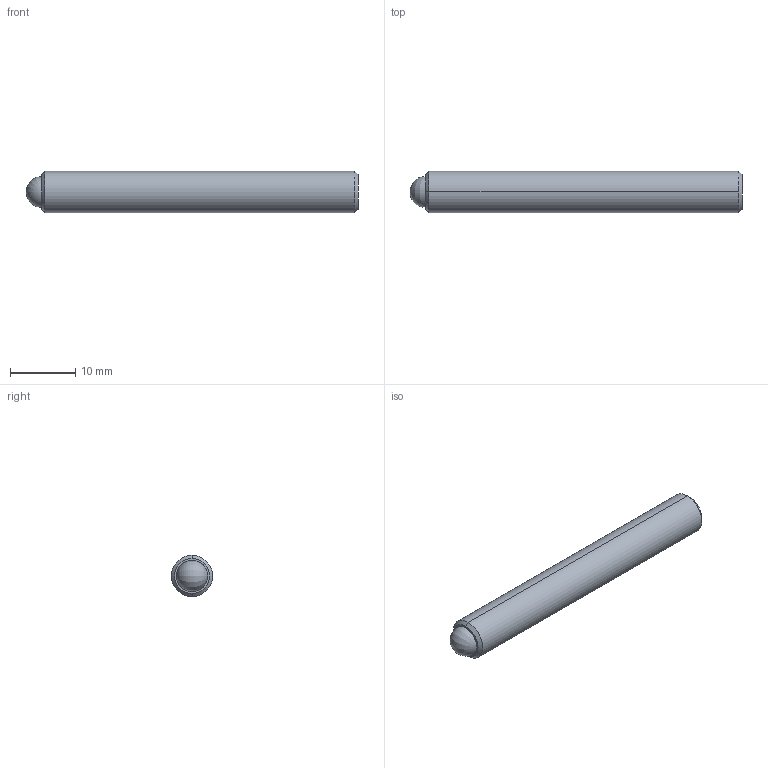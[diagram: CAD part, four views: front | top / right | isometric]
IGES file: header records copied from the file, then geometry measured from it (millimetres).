
Start section: SolidWorks IGES file using analytic representation for surfaces
Global section: file name: C:\Users\workpc\Desktop\KMA Solidworks\TS250-80 Series\TS250-80 High Vacuum\TS250-80 High Vacuum 3D Models\TS250-80-2000-AA-HV.IGS; native system: SolidWorks 2013; preprocessor: SolidWorks 2013; author: workpc; date: 130510.104146; units: inch
Bounding box: 50.8 x 6.35 x 6.35 mm (x, y, z)
Surface area: 1139.5 mm2 (no closed solid volume)
Topology: 0 solids, 0 shells, 24 faces, 240 edges, 236 vertices
Faces by surface type: revolution 14, bspline 10
